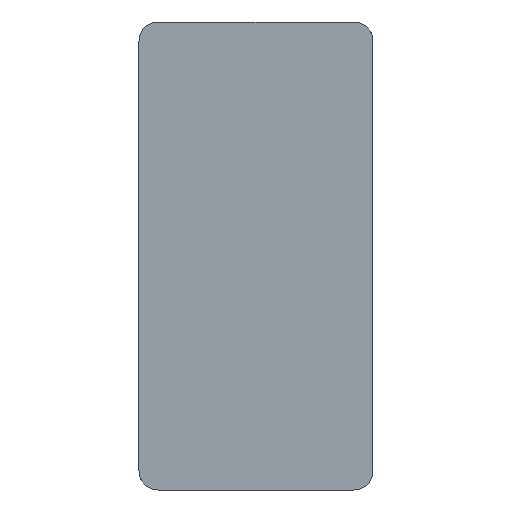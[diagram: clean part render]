
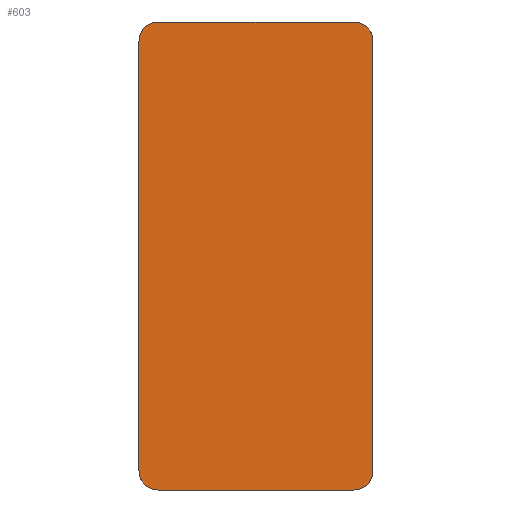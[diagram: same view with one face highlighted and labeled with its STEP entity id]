
A CAD part, front view. The second image highlights one B-rep face of the part: STEP entity #603.
In plain terms, the highlighted planar face has unit normal (0, -1, 0).
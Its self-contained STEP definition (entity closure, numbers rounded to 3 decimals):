
#75 = CARTESIAN_POINT ( 'NONE',  ( -30., 0., 55. ) ) ;
#141 = LINE ( 'NONE', #1462, #1979 ) ;
#153 = CARTESIAN_POINT ( 'NONE',  ( 25., 0., 60. ) ) ;
#176 = CIRCLE ( 'NONE', #300, 5. ) ;
#189 = DIRECTION ( 'NONE',  ( 0., -1., 0. ) ) ;
#210 = CARTESIAN_POINT ( 'NONE',  ( -25., 0., 60. ) ) ;
#251 = EDGE_CURVE ( 'NONE', #1396, #676, #176, .T. ) ;
#272 = CARTESIAN_POINT ( 'NONE',  ( -25., 0., 55. ) ) ;
#277 = VERTEX_POINT ( 'NONE', #1002 ) ;
#300 = AXIS2_PLACEMENT_3D ( 'NONE', #272, #1158, #1169 ) ;
#388 = EDGE_CURVE ( 'NONE', #277, #2118, #1878, .T. ) ;
#412 = EDGE_CURVE ( 'NONE', #571, #1269, #2436, .T. ) ;
#445 = VECTOR ( 'NONE', #1398, 1000. ) ;
#494 = ORIENTED_EDGE ( 'NONE', *, *, #761, .T. ) ;
#545 = EDGE_CURVE ( 'NONE', #2118, #2427, #2484, .T. ) ;
#569 = CARTESIAN_POINT ( 'NONE',  ( -30., 0., 55. ) ) ;
#571 = VERTEX_POINT ( 'NONE', #2071 ) ;
#572 = CARTESIAN_POINT ( 'NONE',  ( -25., 0., -55. ) ) ;
#575 = CARTESIAN_POINT ( 'NONE',  ( -25., 0., -60. ) ) ;
#603 = ADVANCED_FACE ( 'NONE', ( #1827 ), #1225, .T. ) ;
#612 = DIRECTION ( 'NONE',  ( -1., 0., 0. ) ) ;
#649 = EDGE_CURVE ( 'NONE', #2427, #2857, #2633, .T. ) ;
#676 = VERTEX_POINT ( 'NONE', #569 ) ;
#761 = EDGE_CURVE ( 'NONE', #676, #277, #2262, .T. ) ;
#770 = AXIS2_PLACEMENT_3D ( 'NONE', #1891, #2097, #2287 ) ;
#775 = CARTESIAN_POINT ( 'NONE',  ( -25., 0., -60. ) ) ;
#997 = CARTESIAN_POINT ( 'NONE',  ( 25., 0., -60. ) ) ;
#1002 = CARTESIAN_POINT ( 'NONE',  ( -30., 0., -55. ) ) ;
#1053 = ORIENTED_EDGE ( 'NONE', *, *, #545, .T. ) ;
#1070 = ORIENTED_EDGE ( 'NONE', *, *, #388, .T. ) ;
#1158 = DIRECTION ( 'NONE',  ( 0., -1., 0. ) ) ;
#1169 = DIRECTION ( 'NONE',  ( -1., 0., 0. ) ) ;
#1225 = PLANE ( 'NONE',  #770 ) ;
#1253 = ORIENTED_EDGE ( 'NONE', *, *, #412, .T. ) ;
#1269 = VERTEX_POINT ( 'NONE', #153 ) ;
#1291 = LINE ( 'NONE', #2341, #1371 ) ;
#1371 = VECTOR ( 'NONE', #2138, 1000. ) ;
#1392 = EDGE_LOOP ( 'NONE', ( #1893, #1808, #1253, #1458, #2749, #494, #1070, #1053 ) ) ;
#1396 = VERTEX_POINT ( 'NONE', #210 ) ;
#1398 = DIRECTION ( 'NONE',  ( 0., 0., -1. ) ) ;
#1407 = DIRECTION ( 'NONE',  ( 1., 0., 0. ) ) ;
#1458 = ORIENTED_EDGE ( 'NONE', *, *, #2350, .T. ) ;
#1462 = CARTESIAN_POINT ( 'NONE',  ( 25., 0., 60. ) ) ;
#1468 = DIRECTION ( 'NONE',  ( 0., -1., 0. ) ) ;
#1638 = DIRECTION ( 'NONE',  ( -1., 0., 0. ) ) ;
#1713 = EDGE_CURVE ( 'NONE', #2857, #571, #1291, .T. ) ;
#1808 = ORIENTED_EDGE ( 'NONE', *, *, #1713, .T. ) ;
#1827 = FACE_OUTER_BOUND ( 'NONE', #1392, .T. ) ;
#1878 = CIRCLE ( 'NONE', #2099, 5. ) ;
#1891 = CARTESIAN_POINT ( 'NONE',  ( 25., 0., -55. ) ) ;
#1893 = ORIENTED_EDGE ( 'NONE', *, *, #649, .T. ) ;
#1909 = CARTESIAN_POINT ( 'NONE',  ( 25., 0., 55. ) ) ;
#1979 = VECTOR ( 'NONE', #2334, 1000. ) ;
#2012 = VECTOR ( 'NONE', #1407, 1000. ) ;
#2071 = CARTESIAN_POINT ( 'NONE',  ( 30., 0., 55. ) ) ;
#2097 = DIRECTION ( 'NONE',  ( 0., -1., 0. ) ) ;
#2099 = AXIS2_PLACEMENT_3D ( 'NONE', #572, #1468, #1638 ) ;
#2118 = VERTEX_POINT ( 'NONE', #575 ) ;
#2138 = DIRECTION ( 'NONE',  ( 0., 0., 1. ) ) ;
#2172 = CARTESIAN_POINT ( 'NONE',  ( 25., 0., -55. ) ) ;
#2262 = LINE ( 'NONE', #75, #445 ) ;
#2287 = DIRECTION ( 'NONE',  ( -1., 0., 0. ) ) ;
#2334 = DIRECTION ( 'NONE',  ( -1., 0., 0. ) ) ;
#2341 = CARTESIAN_POINT ( 'NONE',  ( 30., 0., -55. ) ) ;
#2350 = EDGE_CURVE ( 'NONE', #1269, #1396, #141, .T. ) ;
#2354 = DIRECTION ( 'NONE',  ( 0., -1., 0. ) ) ;
#2387 = AXIS2_PLACEMENT_3D ( 'NONE', #2172, #189, #612 ) ;
#2427 = VERTEX_POINT ( 'NONE', #997 ) ;
#2436 = CIRCLE ( 'NONE', #2718, 5. ) ;
#2484 = LINE ( 'NONE', #775, #2012 ) ;
#2633 = CIRCLE ( 'NONE', #2387, 5. ) ;
#2699 = CARTESIAN_POINT ( 'NONE',  ( 30., 0., -55. ) ) ;
#2718 = AXIS2_PLACEMENT_3D ( 'NONE', #1909, #2354, #2803 ) ;
#2749 = ORIENTED_EDGE ( 'NONE', *, *, #251, .T. ) ;
#2803 = DIRECTION ( 'NONE',  ( -1., 0., 0. ) ) ;
#2857 = VERTEX_POINT ( 'NONE', #2699 ) ;
